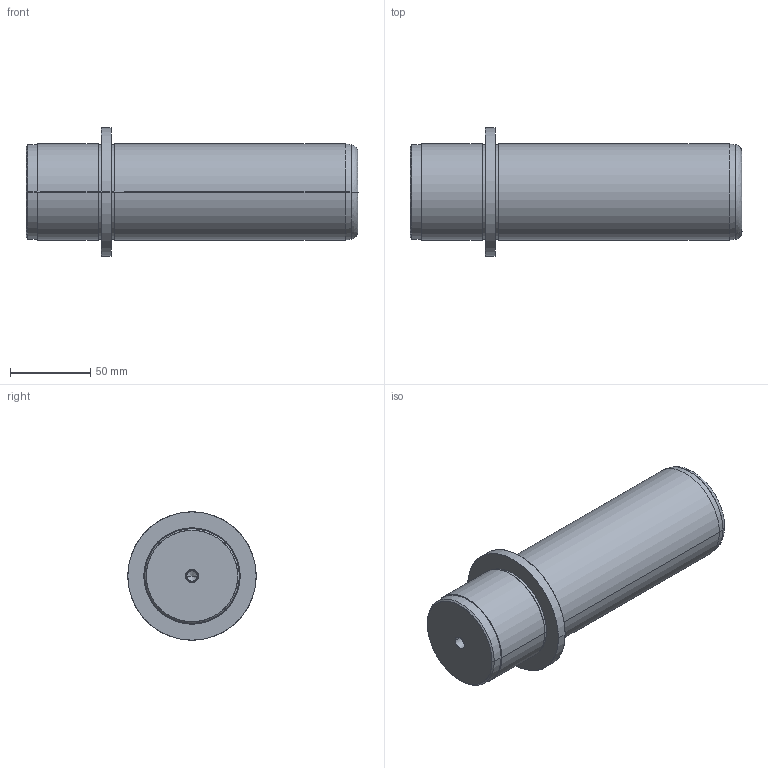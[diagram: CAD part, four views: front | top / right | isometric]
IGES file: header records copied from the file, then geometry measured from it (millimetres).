
Start section: SolidWorks IGES FILE using analytic representation for surfaces
Global section: file name: D:\zzzzz\Delta\D06\60\D06 - 60x160x47.IGS; native system: SolidWorks 2004 by SolidWorks Corporation; preprocessor: Version 5.3; author: Hkn; date: 080327.151600; units: millimetre
Bounding box: 207 x 80 x 80 mm (x, y, z)
Surface area: 50359.6 mm2 (no closed solid volume)
Topology: 0 solids, 0 shells, 39 faces, 1080 edges, 1076 vertices
Faces by surface type: revolution 28, bspline 11
